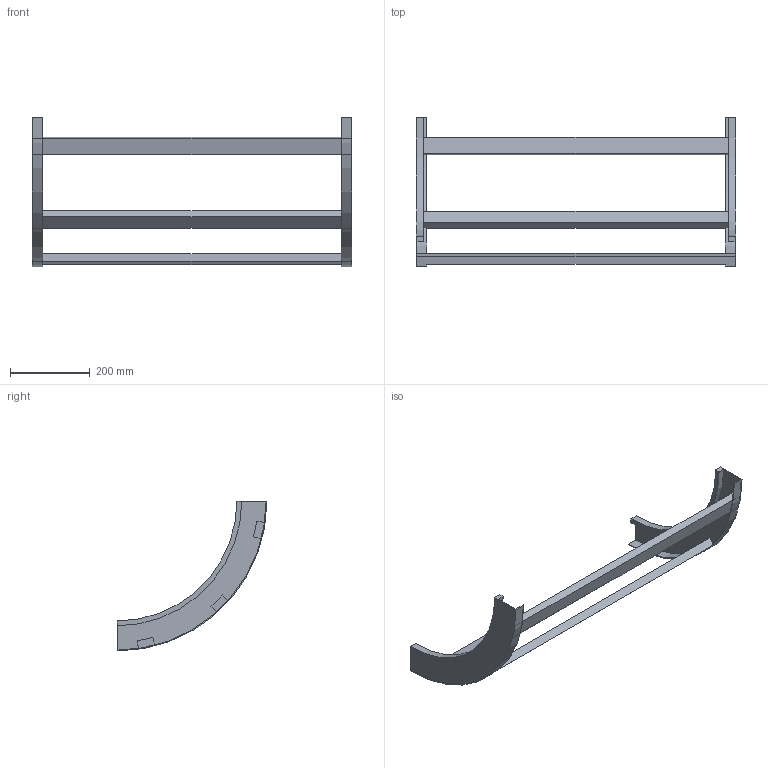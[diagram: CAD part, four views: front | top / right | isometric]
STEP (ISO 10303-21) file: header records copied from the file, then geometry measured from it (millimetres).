
FILE_DESCRIPTION (( 'STEP AP214' ), '1' );
FILE_NAME ('B2X30B3C800XX.step', '2025-03-20T10:25:35', ( '' ), ( '' ), 'SwSTEP 2.0', 'SolidWorks 2023', '' );
FILE_SCHEMA (( 'AUTOMOTIVE_DESIGN' ));
Length unit declared in the file: millimetre
Products named in the file (3): TRAVERSINO_800; B2X30B3C800XX; B2_LONGH.SALITA_90°_H75_R300
Assembly tree (5 placements, depth 2):
  B2X30B3C800XX
    B2_LONGH.SALITA_90°_H75_R300  x2
    TRAVERSINO_800  x3
Bounding box: 800 x 375 x 375 mm (x, y, z)
Volume: 2336645.8 mm3; surface area: 548170.5 mm2
Topology: 5 solids, 5 shells, 38 faces, 84 edges, 56 vertices
Faces by surface type: plane 30, cylinder 8
Entity records: 560 total; most frequent: DIRECTION 92, CARTESIAN_POINT 84, ORIENTED_EDGE 72, EDGE_CURVE 36, AXIS2_PLACEMENT_3D 32, VECTOR 28, LINE 28, VERTEX_POINT 24
